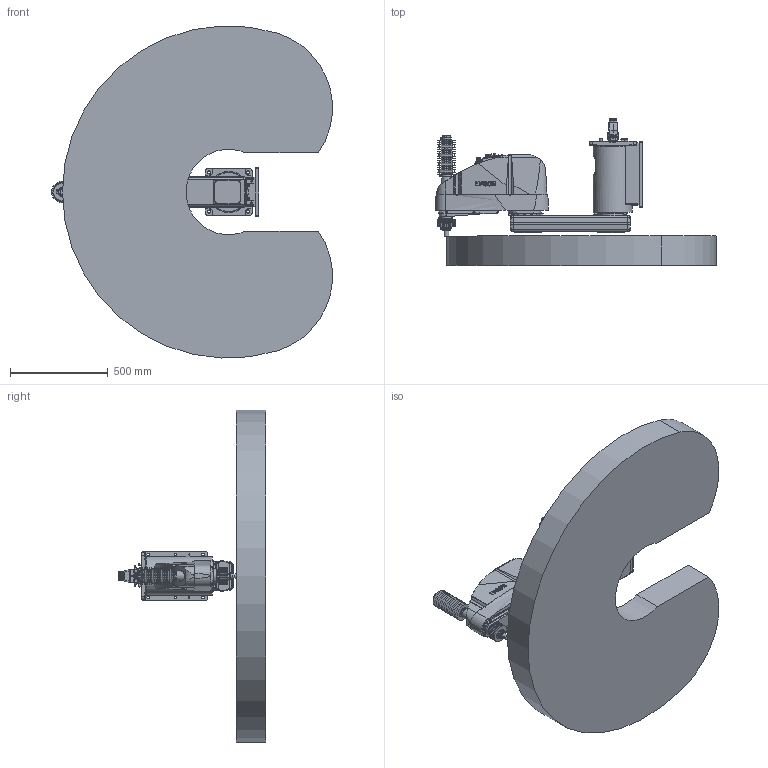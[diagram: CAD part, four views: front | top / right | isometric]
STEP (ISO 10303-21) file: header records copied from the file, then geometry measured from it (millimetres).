
FILE_DESCRIPTION( ( 'STEP AP214' ), '1' );
FILE_NAME( 'C:/Users/9607552/Desktop/GX10-B851CW_straight.stp', '2023-08-01T09:23:51', ( '' ), ( '' ), ' ', 'PARTsolutions', ' ' );
FILE_SCHEMA( ( 'AUTOMOTIVE_DESIGN { 1 0 10303 214 1 1 1 1 }' ) );
Length unit declared in the file: millimetre
Products named in the file (7): GX10-B851CWS-W; _Base cw; _Straight-B; _J1 Arm GX10-450 r/w; _J2 Arm GX10-c; _J3 Arm GX10-c (1); _GX10_20B-29_1
Assembly tree (6 placements, depth 2):
  GX10-B851CWS-W
    _Base cw
    _Straight-B
    _J1 Arm GX10-450 r/w
    _J2 Arm GX10-c
    _J3 Arm GX10-c (1)
    _GX10_20B-29_1
Bounding box: 1435.96 x 753.35 x 1698.44 mm (x, y, z)
Volume: 291273916.7 mm3; surface area: 6071870 mm2
Topology: 6 solids, 6 shells, 2543 faces, 6285 edges, 4085 vertices
Faces by surface type: plane 1317, cylinder 766, cone 352, torus 70, bspline 37, sphere 1
Full cylindrical faces by diameter (mm): 1.18 x55, 2.5 x2, 3 x32, 3.242 x10, 3.3 x9, 4 x2, 4.2 x2, 4.8 x4, 5.1 x4, 5.34 x4, 5.5 x12, 6 x4, 6.2 x2, 6.647 x2, 6.8 x2, 7 x19, 7.5 x1, 7.59 x4, 8 x4, 8.5 x2, 9 x4, 10 x32, 10.5 x4, 11 x14, 12 x7, 12.25 x1, 13 x8, 14 x20, 14.25 x1, 16 x7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
Entity records: 96108 total; most frequent: CARTESIAN_POINT 17940, DIRECTION 11980, ORIENTED_EDGE 11040, EDGE_CURVE 5520, AXIS2_PLACEMENT_3D 4575, VERTEX_POINT 3975, EDGE_LOOP 3576, FACE_OUTER_BOUND 2911
